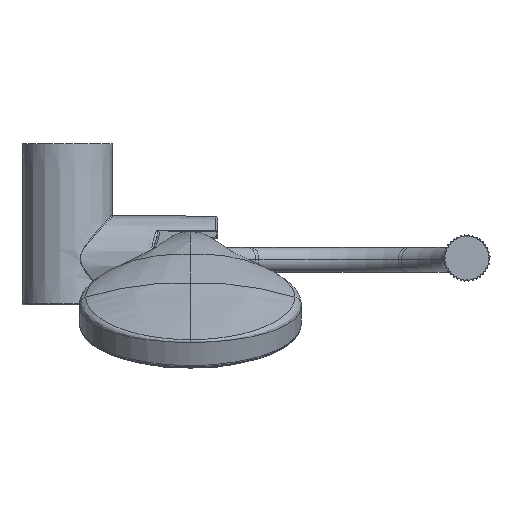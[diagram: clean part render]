
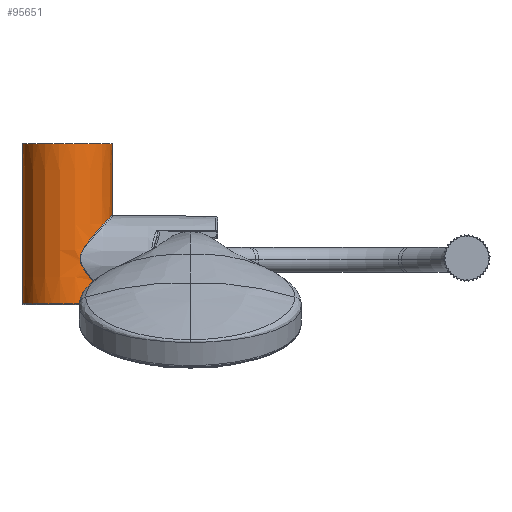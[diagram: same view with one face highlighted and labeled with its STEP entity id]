
A CAD part, top view. The second image highlights one B-rep face of the part: STEP entity #95651.
In plain terms, the highlighted conical face has half-angle 0.2 degrees and reference radius 22.361 mm.
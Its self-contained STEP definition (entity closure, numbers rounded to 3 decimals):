
#93374=CARTESIAN_POINT('',(-12.106,-81.502,0.));
#93375=DIRECTION('',(0.,-1.,0.));
#93376=DIRECTION('',(1.,0.,0.));
#93377=AXIS2_PLACEMENT_3D('',#93374,#93375,#93376);
#93379=DIRECTION('',(-0.003,-1.,0.));
#93380=VECTOR('',#93379,35.228);
#93381=CARTESIAN_POINT('',(10.394,-2.,0.));
#93382=LINE('',#93381,#93380);
#93383=CARTESIAN_POINT('',(10.271,-37.228,
0.));
#93384=CARTESIAN_POINT('',(10.271,-37.228,
0.897));
#93385=CARTESIAN_POINT('',(10.162,-37.344,
2.586));
#93386=CARTESIAN_POINT('',(9.792,-37.739,
4.746));
#93387=CARTESIAN_POINT('',(9.293,-38.271,
6.621));
#93388=CARTESIAN_POINT('',(8.653,-38.956,
8.413));
#93389=CARTESIAN_POINT('',(7.824,-39.847,
10.219));
#93390=CARTESIAN_POINT('',(6.885,-40.861,
11.857));
#93391=CARTESIAN_POINT('',(5.924,-41.905,
13.26));
#93392=CARTESIAN_POINT('',(4.885,-43.043,
14.565));
#93393=CARTESIAN_POINT('',(3.681,-44.374,
15.856));
#93394=CARTESIAN_POINT('',(2.418,-45.792,
17.01));
#93395=CARTESIAN_POINT('',(1.193,-47.196,
17.974));
#93396=CARTESIAN_POINT('',(-0.04,-48.644,
18.818));
#93397=CARTESIAN_POINT('',(-1.369,-50.269,
19.601));
#93398=CARTESIAN_POINT('',(-2.667,-51.962,
20.247));
#93399=CARTESIAN_POINT('',(-3.808,-53.616,
20.73));
#93400=CARTESIAN_POINT('',(-4.734,-55.209,
21.067));
#93401=CARTESIAN_POINT('',(-5.391,-56.732,
21.276));
#93402=CARTESIAN_POINT('',(-5.74,-58.173,
21.376));
#93403=CARTESIAN_POINT('',(-5.787,-59.592,
21.385));
#93404=CARTESIAN_POINT('',(-5.497,-61.125,
21.293));
#93405=CARTESIAN_POINT('',(-4.826,-62.782,
21.071));
#93406=CARTESIAN_POINT('',(-3.822,-64.528,
20.697));
#93407=CARTESIAN_POINT('',(-2.551,-66.356,
20.14));
#93408=CARTESIAN_POINT('',(-1.221,-68.072,
19.446));
#93409=CARTESIAN_POINT('',(0.016,-69.578,
18.694));
#93410=CARTESIAN_POINT('',(1.259,-71.039,
17.824));
#93411=CARTESIAN_POINT('',(2.557,-72.522,
16.769));
#93412=CARTESIAN_POINT('',(3.783,-73.897,
15.603));
#93413=CARTESIAN_POINT('',(4.862,-75.09,
14.414));
#93414=CARTESIAN_POINT('',(5.883,-76.208,
13.118));
#93415=CARTESIAN_POINT('',(6.901,-77.315,
11.594));
#93416=CARTESIAN_POINT('',(7.82,-78.307,
9.924));
#93417=CARTESIAN_POINT('',(8.554,-79.095,
8.269));
#93418=CARTESIAN_POINT('',(9.094,-79.675,
6.742));
#93419=CARTESIAN_POINT('',(9.486,-80.094,
5.337));
#93420=CARTESIAN_POINT('',(9.758,-80.384,
4.06));
#93421=CARTESIAN_POINT('',(9.939,-80.577,
2.904));
#93422=CARTESIAN_POINT('',(10.05,-80.695,
1.853));
#93423=CARTESIAN_POINT('',(10.108,-80.757,
0.892));
#93424=CARTESIAN_POINT('',(10.119,-80.769,
0.289));
#93425=CARTESIAN_POINT('',(10.119,-80.769,
0.));
#93427=DIRECTION('',(-0.003,-1.,0.));
#93428=VECTOR('',#93427,0.732);
#93429=CARTESIAN_POINT('',(10.119,-80.769,
0.));
#93430=LINE('',#93429,#93428);
#93500=DIRECTION('',(0.003,-1.,0.));
#93501=VECTOR('',#93500,79.502);
#93502=CARTESIAN_POINT('',(-34.606,-2.,0.));
#93503=LINE('',#93502,#93501);
#93514=CARTESIAN_POINT('',(-12.106,-2.,0.));
#93515=DIRECTION('',(0.,-1.,0.));
#93516=DIRECTION('',(1.,0.,0.));
#93517=AXIS2_PLACEMENT_3D('',#93514,#93515,#93516);
#93519=CARTESIAN_POINT('',(-34.606,-2.,0.));
#93520=CARTESIAN_POINT('',(10.394,-2.,0.));
#93521=VERTEX_POINT('',#93519);
#93522=VERTEX_POINT('',#93520);
#93551=VERTEX_POINT('',#93383);
#93552=VERTEX_POINT('',#93425);
#93559=CARTESIAN_POINT('',(10.116,-81.502,0.));
#93560=CARTESIAN_POINT('',(-34.328,-81.502,0.));
#93561=VERTEX_POINT('',#93559);
#93562=VERTEX_POINT('',#93560);
#95633=CARTESIAN_POINT('',(-12.106,-41.751,0.));
#95634=DIRECTION('',(0.,1.,0.));
#95635=DIRECTION('',(1.,0.,0.));
#95636=AXIS2_PLACEMENT_3D('',#95633,#95634,#95635);
#95637=CONICAL_SURFACE('',#95636,22.361,0.2);
#95639=ORIENTED_EDGE('',*,*,#95638,.T.);
#95641=ORIENTED_EDGE('',*,*,#95640,.F.);
#95643=ORIENTED_EDGE('',*,*,#95642,.F.);
#95645=ORIENTED_EDGE('',*,*,#95644,.T.);
#95646=ORIENTED_EDGE('',*,*,#95623,.T.);
#95648=ORIENTED_EDGE('',*,*,#95647,.T.);
#95649=EDGE_LOOP('',(#95639,#95641,#95643,#95645,#95646,#95648));
#95650=FACE_OUTER_BOUND('',#95649,.F.);
#95651=ADVANCED_FACE('',(#95650),#95637,.T.);
#93378=CIRCLE('',#93377,22.222);
#93426=B_SPLINE_CURVE_WITH_KNOTS('',3,(#93383,#93384,#93385,#93386,#93387,
#93388,#93389,#93390,#93391,#93392,#93393,#93394,#93395,#93396,#93397,#93398,
#93399,#93400,#93401,#93402,#93403,#93404,#93405,#93406,#93407,#93408,#93409,
#93410,#93411,#93412,#93413,#93414,#93415,#93416,#93417,#93418,#93419,#93420,
#93421,#93422,#93423,#93424,#93425),.UNSPECIFIED.,.F.,.F.,(4,1,1,1,1,1,1,1,1,1,
1,1,1,1,1,1,1,1,1,1,1,1,1,1,1,1,1,1,1,1,1,1,1,1,1,1,1,1,1,1,4),(0.,0.025,
0.05,0.075,0.1,0.125,0.15,0.175,0.2,0.225,0.25,0.275,0.3,
0.325,0.35,0.375,0.4,0.425,0.45,0.475,0.5,0.525,0.55,
0.575,0.6,0.625,0.65,0.675,0.7,0.725,0.75,0.775,0.8,0.825,
0.85,0.875,0.9,0.925,0.95,0.975,1.),.UNSPECIFIED.);
#93518=CIRCLE('',#93517,22.5);
#95623=EDGE_CURVE('',#93551,#93552,#93426,.T.);
#95638=EDGE_CURVE('',#93561,#93562,#93378,.T.);
#95640=EDGE_CURVE('',#93521,#93562,#93503,.T.);
#95642=EDGE_CURVE('',#93522,#93521,#93518,.T.);
#95644=EDGE_CURVE('',#93522,#93551,#93382,.T.);
#95647=EDGE_CURVE('',#93552,#93561,#93430,.T.);
